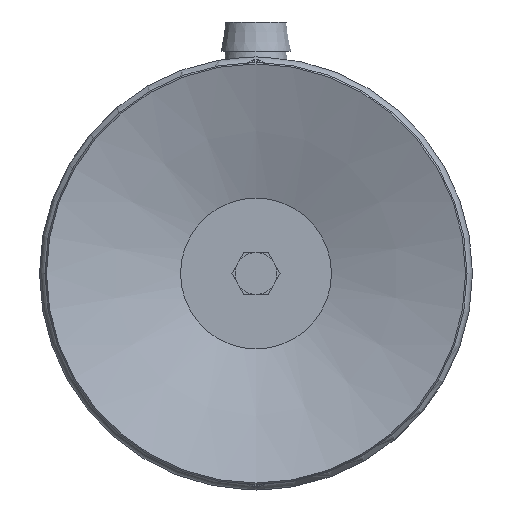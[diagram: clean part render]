
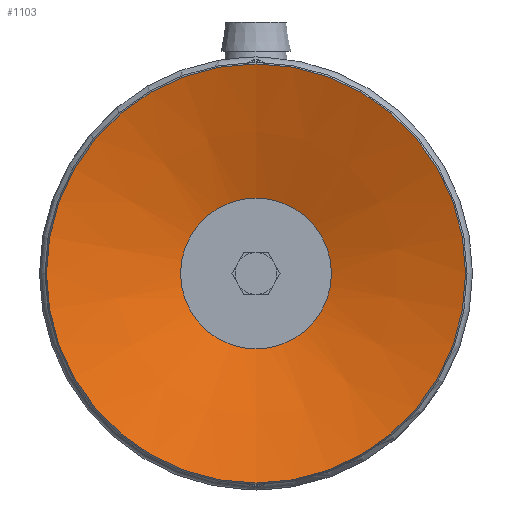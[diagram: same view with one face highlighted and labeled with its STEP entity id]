
A CAD part, front view. The second image highlights one B-rep face of the part: STEP entity #1103.
In plain terms, the highlighted conical face has half-angle 71.075 degrees and reference radius 15 mm.
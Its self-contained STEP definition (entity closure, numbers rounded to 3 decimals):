
#1103=ADVANCED_FACE('',(#2805,#2806),#2807,.F.);
#2805=FACE_BOUND('',#5230,.T.);
#2806=FACE_OUTER_BOUND('',#5231,.T.);
#2807=CONICAL_SURFACE('',#5232,15.0,1.24);
#5230=EDGE_LOOP('',(#8483));
#5231=EDGE_LOOP('',(#8484));
#5232=AXIS2_PLACEMENT_3D('',#8485,#8486,#8487);
#8483=ORIENTED_EDGE('',*,*,#15566,.T.);
#8484=ORIENTED_EDGE('',*,*,#15567,.T.);
#8485=CARTESIAN_POINT('',(0.,0.,0.0));
#8486=DIRECTION('',(0.0,0.,-1.0));
#8487=DIRECTION('',(0.0,1.0,0.));
#15566=EDGE_CURVE('',#19139,#19139,#19140,.T.);
#15567=EDGE_CURVE('',#19141,#19141,#19142,.T.);
#19139=VERTEX_POINT('',#25264);
#19140=CIRCLE('',#25265,5.4);
#19141=VERTEX_POINT('',#25266);
#19142=CIRCLE('',#25267,15.0);
#25264=CARTESIAN_POINT('',(-5.4,0.,3.291));
#25265=AXIS2_PLACEMENT_3D('',#30936,#30937,#30938);
#25266=CARTESIAN_POINT('',(0.,15.0,0.));
#25267=AXIS2_PLACEMENT_3D('',#30939,#30940,#30941);
#30936=CARTESIAN_POINT('',(0.,0.,3.291));
#30937=DIRECTION('',(0.,0.0,1.0));
#30938=DIRECTION('',(-1.0,0.0,0.));
#30939=CARTESIAN_POINT('',(0.,0.,0.0));
#30940=DIRECTION('',(0.0,0.,-1.0));
#30941=DIRECTION('',(0.0,1.0,0.));
